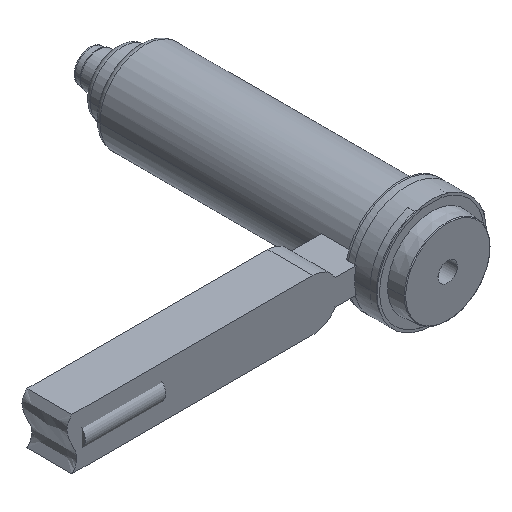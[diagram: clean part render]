
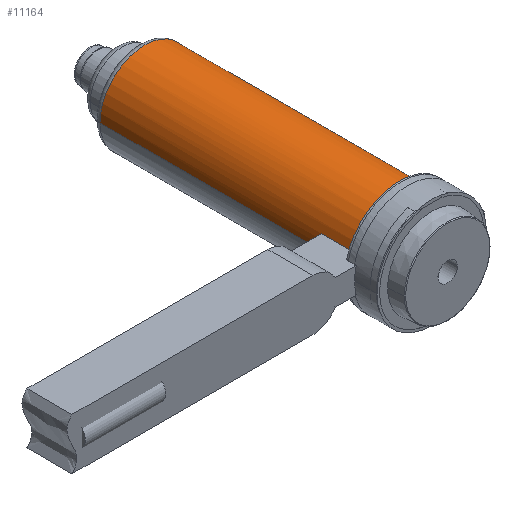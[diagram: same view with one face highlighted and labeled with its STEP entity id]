
A CAD part, isometric view. The second image highlights one B-rep face of the part: STEP entity #11164.
In plain terms, the highlighted cylindrical face has radius 14 mm (diameter 28 mm), a partial arc.
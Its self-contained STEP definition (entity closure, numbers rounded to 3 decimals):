
#10646=CARTESIAN_POINT('',(0.,21.,0.));
#10647=DIRECTION('',(0.,-1.,0.));
#10648=DIRECTION('',(-0.958,0.,0.286));
#10649=AXIS2_PLACEMENT_3D('',#10646,#10647,#10648);
#10651=DIRECTION('',(0.,-1.,0.));
#10652=VECTOR('',#10651,68.289);
#10653=CARTESIAN_POINT('',(-14.,89.289,0.));
#10654=LINE('',#10653,#10652);
#10655=CARTESIAN_POINT('',(0.,89.289,0.));
#10656=DIRECTION('',(0.,1.,0.));
#10657=DIRECTION('',(-1.,0.,0.));
#10658=AXIS2_PLACEMENT_3D('',#10655,#10656,#10657);
#10660=DIRECTION('',(0.,-1.,0.));
#10661=VECTOR('',#10660,79.289);
#10662=CARTESIAN_POINT('',(14.,89.289,0.));
#10663=LINE('',#10662,#10661);
#10664=DIRECTION('',(0.,-1.,0.));
#10665=VECTOR('',#10664,11.);
#10666=CARTESIAN_POINT('',(-13.416,21.,4.));
#10667=LINE('',#10666,#10665);
#10825=CARTESIAN_POINT('',(0.,10.,0.));
#10826=DIRECTION('',(0.,1.,0.));
#10827=DIRECTION('',(-0.958,0.,0.286));
#10828=AXIS2_PLACEMENT_3D('',#10825,#10826,#10827);
#10936=CARTESIAN_POINT('',(-14.,89.289,0.));
#10938=VERTEX_POINT('',#10936);
#10954=CARTESIAN_POINT('',(14.,89.289,0.));
#10956=VERTEX_POINT('',#10954);
#10957=CARTESIAN_POINT('',(14.,10.,0.));
#10958=VERTEX_POINT('',#10957);
#10987=CARTESIAN_POINT('',(-14.,21.,0.));
#10989=VERTEX_POINT('',#10987);
#10995=CARTESIAN_POINT('',(-13.416,21.,4.));
#10996=VERTEX_POINT('',#10995);
#11001=CARTESIAN_POINT('',(-13.416,10.,4.));
#11002=VERTEX_POINT('',#11001);
#11148=CARTESIAN_POINT('',(0.,111.603,0.));
#11149=DIRECTION('',(0.,-1.,0.));
#11150=DIRECTION('',(-1.,0.,0.));
#11151=AXIS2_PLACEMENT_3D('',#11148,#11149,#11150);
#11152=CYLINDRICAL_SURFACE('',#11151,14.);
#11153=ORIENTED_EDGE('',*,*,#11130,.T.);
#11154=ORIENTED_EDGE('',*,*,#11119,.F.);
#11156=ORIENTED_EDGE('',*,*,#11155,.T.);
#11157=ORIENTED_EDGE('',*,*,#11115,.T.);
#11159=ORIENTED_EDGE('',*,*,#11158,.F.);
#11161=ORIENTED_EDGE('',*,*,#11160,.F.);
#11162=EDGE_LOOP('',(#11153,#11154,#11156,#11157,#11159,#11161));
#11163=FACE_OUTER_BOUND('',#11162,.F.);
#11164=ADVANCED_FACE('',(#11163),#11152,.T.);
#10650=CIRCLE('',#10649,14.);
#10659=CIRCLE('',#10658,14.);
#10829=CIRCLE('',#10828,14.);
#11115=EDGE_CURVE('',#10956,#10958,#10663,.T.);
#11119=EDGE_CURVE('',#10938,#10989,#10654,.T.);
#11130=EDGE_CURVE('',#10996,#10989,#10650,.T.);
#11155=EDGE_CURVE('',#10938,#10956,#10659,.T.);
#11158=EDGE_CURVE('',#11002,#10958,#10829,.T.);
#11160=EDGE_CURVE('',#10996,#11002,#10667,.T.);
